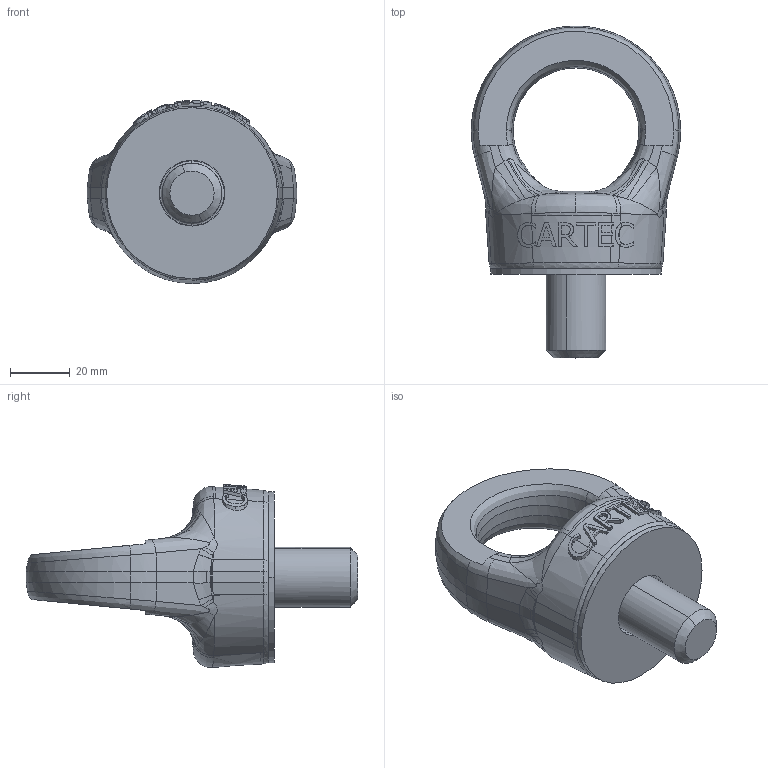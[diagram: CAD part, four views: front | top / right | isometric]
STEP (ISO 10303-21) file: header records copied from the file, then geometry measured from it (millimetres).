
FILE_DESCRIPTION(('STEP AP214'),'1');
FILE_NAME('c817x20.stp','2017-03-27T13:09:06',('TraceParts'),('TraceParts S.A.'),'Spatial InterOp 3D',' ',' ');
FILE_SCHEMA(('automotive_design'));
Length unit declared in the file: millimetre
Products named in the file (3): c817x20_1; c817x20_2; c817x20_3
Bounding box: 70 x 111 x 61.23 mm (x, y, z)
Volume: 110849.5 mm3; surface area: 28968.1 mm2
Topology: 3 solids, 3 shells, 329 faces, 890 edges, 569 vertices
Faces by surface type: bspline 157, plane 82, cylinder 52, cone 30, torus 8
Entity records: 20136 total; most frequent: CARTESIAN_POINT 10127, ORIENTED_EDGE 1774, DIRECTION 1208, EDGE_CURVE 887, VERTEX_POINT 569, AXIS2_PLACEMENT_3D 465, EDGE_LOOP 340, STYLED_ITEM 332
